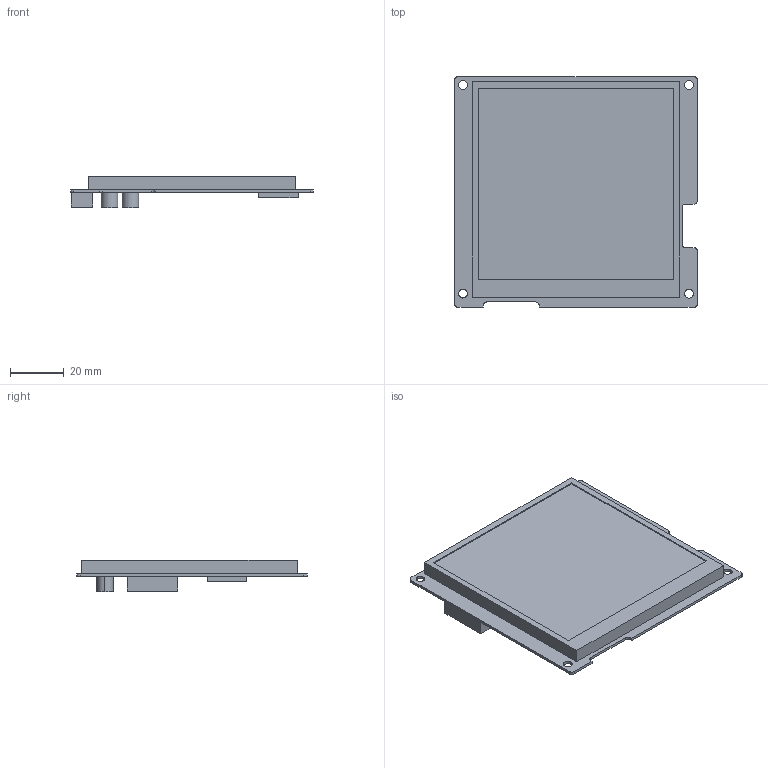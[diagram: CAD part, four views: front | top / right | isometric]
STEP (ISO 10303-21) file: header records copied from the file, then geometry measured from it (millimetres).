
FILE_DESCRIPTION((''),'2;1');
FILE_NAME('3D-DMG48480T040-01WN-220316','2022-03-16T',('Administrator'),(''),'PRO/ENGINEER BY PARAMETRIC TECHNOLOGY CORPORATION, 2008380','PRO/ENGINEER BY PARAMETRIC TECHNOLOGY CORPORATION, 2008380','');
FILE_SCHEMA(('CONFIG_CONTROL_DESIGN'));
Length unit declared in the file: millimetre
Products named in the file (1): 3D-DMG48480T040-01WN-220316
Bounding box: 90.6 x 86.05 x 11.9 mm (x, y, z)
Volume: 38920.2 mm3; surface area: 18017.3 mm2
Topology: 1 solids, 1 shells, 61 faces, 10709 edges, 17251 vertices
Faces by surface type: plane 39, cylinder 22
Entity records: 58680 total; most frequent: DIRECTION 14862, CARTESIAN_POINT 10877, TRIMMED_CURVE 10549, VECTOR 6680, LINE 6680, AXIS2_PLACEMENT_3D 4091, CIRCLE 4029, ORIENTED_EDGE 320
